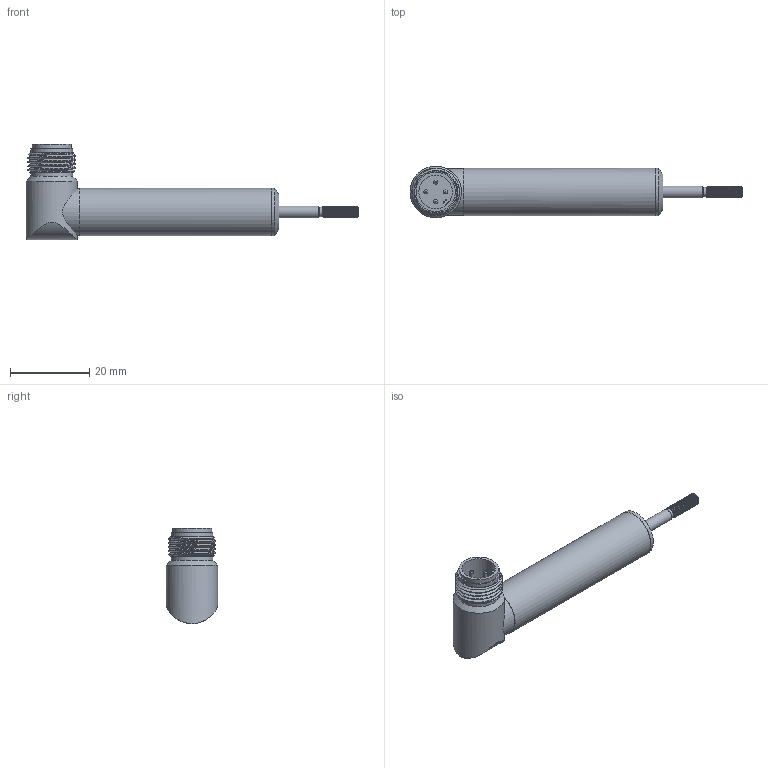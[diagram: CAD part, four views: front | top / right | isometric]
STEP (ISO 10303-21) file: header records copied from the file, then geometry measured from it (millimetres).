
FILE_DESCRIPTION( ( 'STEP AP214' ), '1' );
FILE_NAME( 'N:/Engineering/CAD_Solid/LVDT/SM/Kunden-3D-Modell/SM2-SG-SR.stp', '2011-12-12T13:35:18', ( ' ' ), ( ' ' ), 'XStep 1.0', ' ', ' ' );
FILE_SCHEMA( ( 'CONFIG_CONTROL_DESIGN) ( )' ) );
Length unit declared in the file: metre
Products named in the file (3): 1; 2; 3
Bounding box: 84 x 13 x 24.1 mm (x, y, z)
Surface area: 4043.6 mm2 (no closed solid volume)
Topology: 0 solids, 57 shells, 57 faces, 226 edges, 204 vertices
Faces by surface type: cylinder 23, plane 15, bspline 10, cone 8, torus 1
Full cylindrical faces by diameter (mm): 1 x4, 2.4 x1, 3 x1, 8.5 x1, 10 x1, 10.6 x2, 11.8 x1, 12 x2, 13 x1
Entity records: 7096 total; most frequent: CARTESIAN_POINT 5018, DIRECTION 338, ORIENTED_EDGE 193, EDGE_CURVE 193, VERTEX_POINT 193, AXIS2_PLACEMENT_3D 152, CIRCLE 102, FACE_BOUND 93
